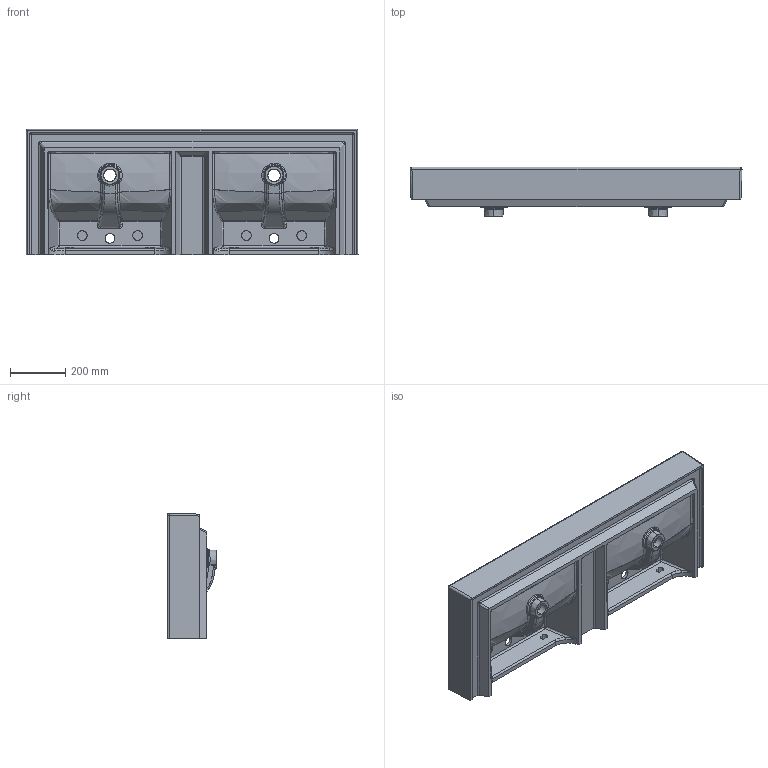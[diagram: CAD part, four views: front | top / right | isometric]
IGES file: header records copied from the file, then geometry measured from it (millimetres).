
Start section: SolidWorks IGES file using analytic representation for surfaces
Global section: file name: C:\Users\UTENTE 1\Desktop\3D LAVABI VELCA\VELCA120dv.IGS; native system: SolidWorks 2013; preprocessor: SolidWorks 2013; author: UTENTE 1; date: 141013.172858; units: millimetre
Bounding box: 1199.5 x 180 x 454.75 mm (x, y, z)
Surface area: 1921584.9 mm2 (no closed solid volume)
Topology: 0 solids, 0 shells, 348 faces, 6646 edges, 7433 vertices
Faces by surface type: bspline 224, revolution 124
